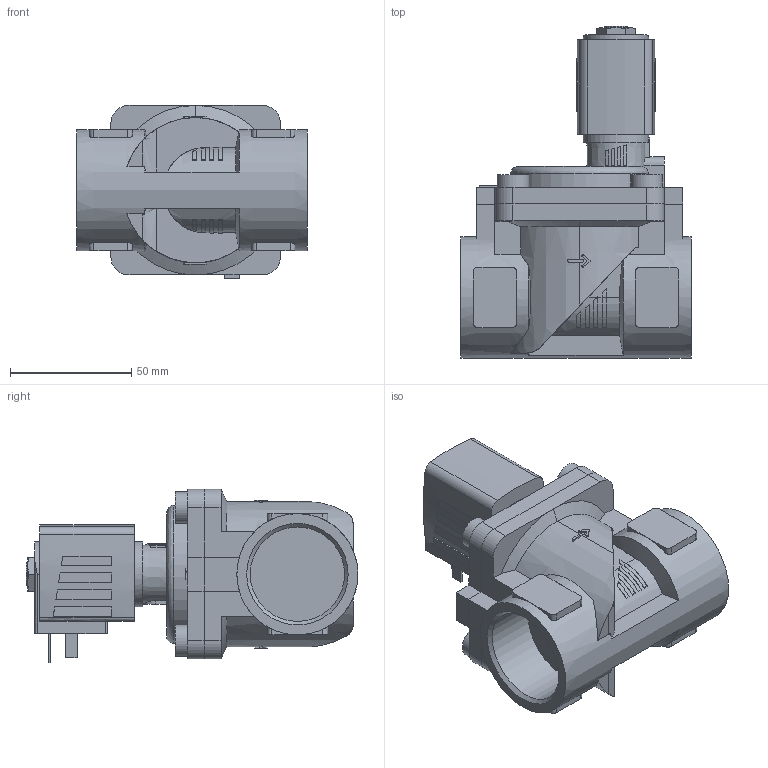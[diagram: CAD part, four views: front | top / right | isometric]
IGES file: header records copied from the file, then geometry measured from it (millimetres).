
Start section: Data from Parasolid IGES Translator 26.0.171, Copyright(c) 2006 Siemens PLM Software. All Rights Reserved.
Global section: file name: 6281-274055-2_2-Way_Solenoid_Valve__Servo-assisted__General_Purpose.igs; native system: By Siemens PLM Incorporated; preprocessor: XPlus GENERIC/IGES 26.0.171; author: Noname; organization: Noname; date: 20240827.151826; units: millimetre
Bounding box: 95 x 137 x 71.5 mm (x, y, z)
Surface area: 60116.9 mm2 (no closed solid volume)
Topology: 0 solids, 0 shells, 361 faces, 1892 edges, 1884 vertices
Faces by surface type: extrusion 242, revolution 119
